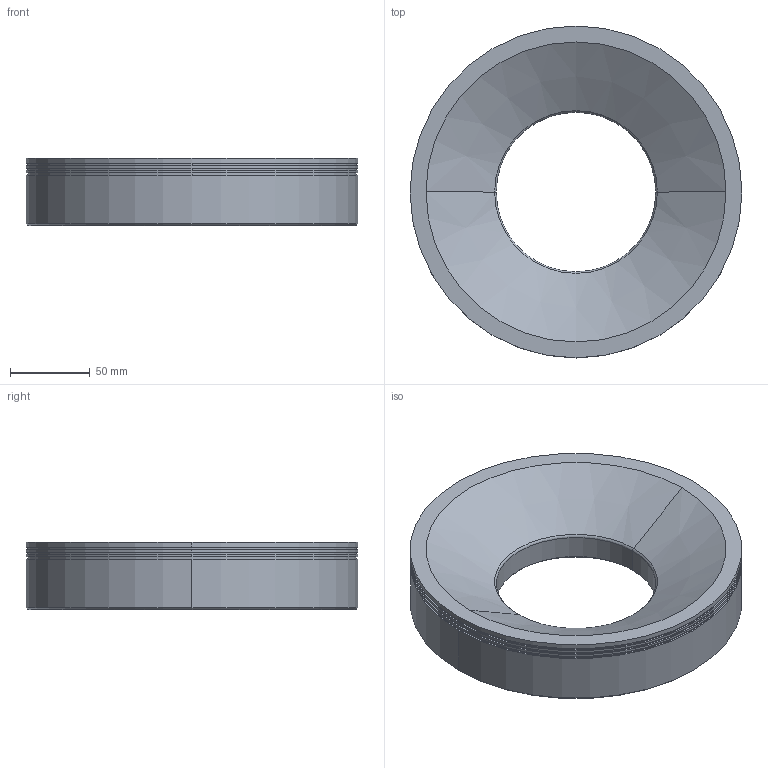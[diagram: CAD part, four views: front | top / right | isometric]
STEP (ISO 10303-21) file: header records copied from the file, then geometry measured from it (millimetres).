
FILE_DESCRIPTION((''),'2;1');
FILE_NAME('DRL7030','2020-03-28T',('ASUS'),(''),'PRO/ENGINEER BY PARAMETRIC TECHNOLOGY CORPORATION, 2008380','PRO/ENGINEER BY PARAMETRIC TECHNOLOGY CORPORATION, 2008380','');
FILE_SCHEMA(('CONFIG_CONTROL_DESIGN'));
Length unit declared in the file: millimetre
Products named in the file (1): DRL7030
Bounding box: 208 x 208 x 42 mm (x, y, z)
Volume: 866551.7 mm3; surface area: 91673.4 mm2
Topology: 1 solids, 5 shells, 68 faces, 152 edges, 92 vertices
Faces by surface type: cylinder 32, cone 22, plane 12, torus 2
Entity records: 1901 total; most frequent: DIRECTION 372, CARTESIAN_POINT 305, ORIENTED_EDGE 272, AXIS2_PLACEMENT_3D 159, EDGE_CURVE 144, VERTEX_POINT 92, CIRCLE 90, EDGE_LOOP 84
